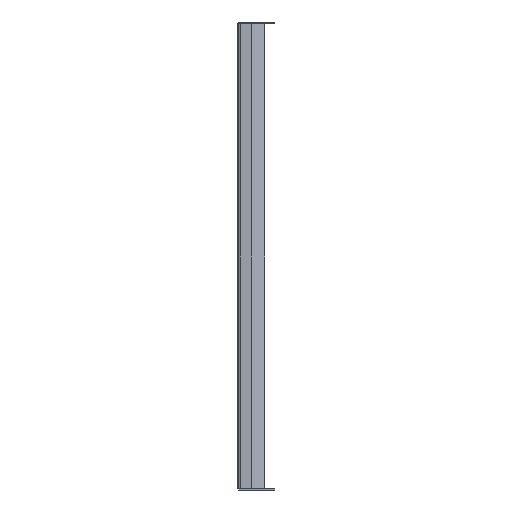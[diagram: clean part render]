
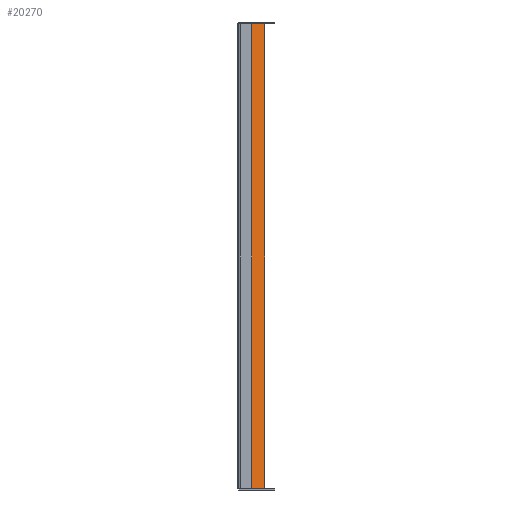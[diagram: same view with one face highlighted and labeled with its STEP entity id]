
A CAD part, left-side view. The second image highlights one B-rep face of the part: STEP entity #20270.
In plain terms, the highlighted planar face has unit normal (-0.94, -0.342, 0).
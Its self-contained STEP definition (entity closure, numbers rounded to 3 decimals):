
#2115=FACE_OUTER_BOUND('',#3510,.T.);
#3510=EDGE_LOOP('',(#15907,#15908,#15909,#15910));
#4823=LINE('',#34428,#7101);
#4842=LINE('',#34475,#7120);
#4844=LINE('',#34481,#7122);
#4848=LINE('',#34488,#7126);
#7101=VECTOR('',#25401,10.);
#7120=VECTOR('',#25444,10.);
#7122=VECTOR('',#25450,10.);
#7126=VECTOR('',#25458,10.);
#9488=VERTEX_POINT('',#34425);
#9489=VERTEX_POINT('',#34427);
#9505=VERTEX_POINT('',#34474);
#9507=VERTEX_POINT('',#34480);
#11776=EDGE_CURVE('',#9489,#9488,#4823,.T.);
#11800=EDGE_CURVE('',#9488,#9505,#4842,.T.);
#11803=EDGE_CURVE('',#9507,#9489,#4844,.T.);
#11807=EDGE_CURVE('',#9505,#9507,#4848,.T.);
#15907=ORIENTED_EDGE('',*,*,#11800,.T.);
#15908=ORIENTED_EDGE('',*,*,#11807,.T.);
#15909=ORIENTED_EDGE('',*,*,#11803,.T.);
#15910=ORIENTED_EDGE('',*,*,#11776,.T.);
#19063=PLANE('',#21968);
#20270=ADVANCED_FACE('',(#2115),#19063,.T.);
#21968=AXIS2_PLACEMENT_3D('',#34487,#25456,#25457);
#25401=DIRECTION('',(-0.342,0.94,0.));
#25444=DIRECTION('',(0.,0.,-1.));
#25450=DIRECTION('',(0.,0.,1.));
#25456=DIRECTION('center_axis',(-0.94,-0.342,0.));
#25457=DIRECTION('ref_axis',(0.,0.,1.));
#25458=DIRECTION('',(0.342,-0.94,0.));
#34425=CARTESIAN_POINT('',(0.196,-25.539,894.));
#34427=CARTESIAN_POINT('',(9.099,-50.,894.));
#34428=CARTESIAN_POINT('',(0.,-25.,894.));
#34474=CARTESIAN_POINT('',(0.196,-25.539,0.));
#34475=CARTESIAN_POINT('',(0.196,-25.539,0.));
#34480=CARTESIAN_POINT('',(9.099,-50.,0.));
#34481=CARTESIAN_POINT('',(9.099,-50.,0.));
#34487=CARTESIAN_POINT('Origin',(9.099,-50.,0.));
#34488=CARTESIAN_POINT('',(0.,-25.,0.));
